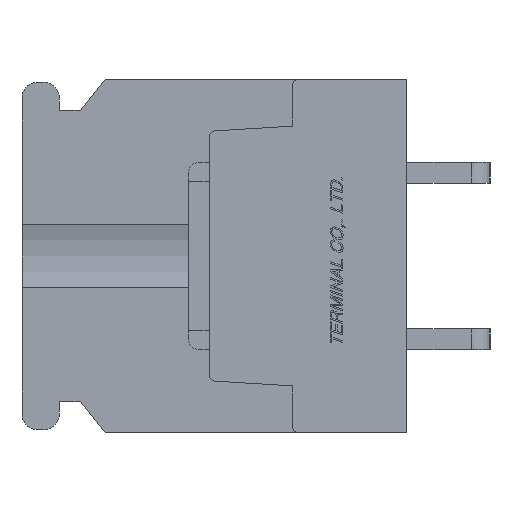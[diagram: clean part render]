
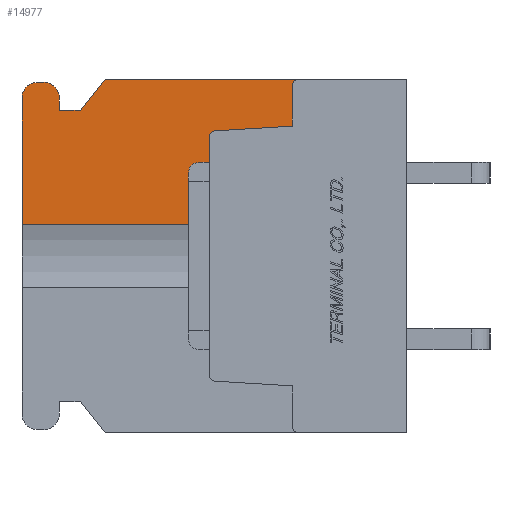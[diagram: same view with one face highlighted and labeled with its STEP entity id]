
A CAD part, left-side view. The second image highlights one B-rep face of the part: STEP entity #14977.
In plain terms, the highlighted planar face has unit normal (-1, 0, 0).
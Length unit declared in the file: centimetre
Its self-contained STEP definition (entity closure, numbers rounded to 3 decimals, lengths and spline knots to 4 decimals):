
#1463=VECTOR('',#17374,1.);
#1465=VECTOR('',#17377,1.);
#1467=VECTOR('',#17384,1.);
#1468=VECTOR('',#17385,1.);
#1469=VECTOR('',#17386,1.);
#1470=VECTOR('',#17387,1.);
#1471=VECTOR('',#17388,1.);
#1472=VECTOR('',#17391,1.);
#1473=VECTOR('',#17394,1.);
#1474=VECTOR('',#17395,1.);
#3125=LINE('',#22637,#1463);
#3127=LINE('',#22641,#1465);
#3129=LINE('',#22647,#1467);
#3130=LINE('',#22649,#1468);
#3131=LINE('',#22651,#1469);
#3132=LINE('',#22653,#1470);
#3133=LINE('',#22655,#1471);
#3134=LINE('',#22659,#1472);
#3135=LINE('',#22663,#1473);
#3136=LINE('',#22665,#1474);
#4784=VERTEX_POINT('',#22630);
#4785=VERTEX_POINT('',#22632);
#4786=VERTEX_POINT('',#22636);
#4787=VERTEX_POINT('',#22640);
#4788=VERTEX_POINT('',#22644);
#4789=VERTEX_POINT('',#22648);
#4790=VERTEX_POINT('',#22650);
#4791=VERTEX_POINT('',#22652);
#4792=VERTEX_POINT('',#22654);
#4793=VERTEX_POINT('',#22656);
#4794=VERTEX_POINT('',#22658);
#4795=VERTEX_POINT('',#22660);
#4796=VERTEX_POINT('',#22662);
#4797=VERTEX_POINT('',#22664);
#5545=CIRCLE('',#25306,0.03);
#5546=CIRCLE('',#25310,0.03);
#5547=CIRCLE('',#25312,0.075);
#5548=CIRCLE('',#25313,0.075);
#7009=EDGE_CURVE('',#4785,#4784,#5545,.T.);
#7012=EDGE_CURVE('',#4784,#4786,#3125,.T.);
#7014=EDGE_CURVE('',#4786,#4787,#3127,.T.);
#7016=EDGE_CURVE('',#4787,#4788,#5546,.T.);
#7017=EDGE_CURVE('',#4789,#4785,#3129,.T.);
#7018=EDGE_CURVE('',#4790,#4788,#3130,.T.);
#7019=EDGE_CURVE('',#4791,#4790,#3131,.T.);
#7020=EDGE_CURVE('',#4792,#4791,#3132,.T.);
#7021=EDGE_CURVE('',#4793,#4792,#3133,.T.);
#7022=EDGE_CURVE('',#4794,#4793,#5547,.T.);
#7023=EDGE_CURVE('',#4795,#4794,#3134,.T.);
#7024=EDGE_CURVE('',#4796,#4795,#5548,.T.);
#7025=EDGE_CURVE('',#4797,#4796,#3135,.T.);
#7026=EDGE_CURVE('',#4797,#4789,#3136,.T.);
#10438=ORIENTED_EDGE('',*,*,#7017,.T.);
#10439=ORIENTED_EDGE('',*,*,#7009,.T.);
#10440=ORIENTED_EDGE('',*,*,#7012,.T.);
#10441=ORIENTED_EDGE('',*,*,#7014,.T.);
#10442=ORIENTED_EDGE('',*,*,#7016,.T.);
#10443=ORIENTED_EDGE('',*,*,#7018,.F.);
#10444=ORIENTED_EDGE('',*,*,#7019,.F.);
#10445=ORIENTED_EDGE('',*,*,#7020,.F.);
#10446=ORIENTED_EDGE('',*,*,#7021,.F.);
#10447=ORIENTED_EDGE('',*,*,#7022,.F.);
#10448=ORIENTED_EDGE('',*,*,#7023,.F.);
#10449=ORIENTED_EDGE('',*,*,#7024,.F.);
#10450=ORIENTED_EDGE('',*,*,#7025,.F.);
#10451=ORIENTED_EDGE('',*,*,#7026,.T.);
#13139=EDGE_LOOP('',(#10438,#10439,#10440,#10441,#10442,#10443,#10444,#10445,
#10446,#10447,#10448,#10449,#10450,#10451));
#14085=FACE_BOUND('',#13139,.T.);
#14977=ADVANCED_FACE('',(#14085),#15684,.F.);
#15684=PLANE('',#25311);
#17369=DIRECTION('',(1.,0.,0.));
#17370=DIRECTION('',(0.,0.,0.03));
#17374=DIRECTION('',(0.,-0.998,0.061));
#17377=DIRECTION('',(0.,0.,1.));
#17381=DIRECTION('',(1.,0.,0.));
#17382=DIRECTION('',(0.,0.,0.03));
#17383=DIRECTION('',(1.,0.,0.));
#17384=DIRECTION('',(0.,0.,1.));
#17385=DIRECTION('',(0.,-1.,0.));
#17386=DIRECTION('',(0.,-0.625,0.781));
#17387=DIRECTION('',(0.,-1.,0.));
#17388=DIRECTION('',(0.,0.,-1.));
#17389=DIRECTION('',(1.,0.,0.));
#17390=DIRECTION('',(0.,0.,-0.075));
#17391=DIRECTION('',(0.,-1.,0.));
#17392=DIRECTION('',(1.,0.,0.));
#17393=DIRECTION('',(0.,0.,-0.075));
#17394=DIRECTION('',(0.,0.,1.));
#17395=DIRECTION('',(0.,-1.,0.));
#22630=CARTESIAN_POINT('',(-1.1,0.9218,0.6017));
#22631=CARTESIAN_POINT('',(-1.1,0.92,0.5718));
#22632=CARTESIAN_POINT('',(-1.1,0.95,0.5718));
#22636=CARTESIAN_POINT('',(-1.1,0.55,0.6245));
#22637=CARTESIAN_POINT('',(-1.1,0.859,0.6056));
#22640=CARTESIAN_POINT('',(-1.1,0.55,0.82));
#22641=CARTESIAN_POINT('',(-1.1,0.55,0.3611));
#22644=CARTESIAN_POINT('',(-1.1,0.52,0.85));
#22645=CARTESIAN_POINT('',(-1.1,0.52,0.82));
#22646=CARTESIAN_POINT('',(-1.1,0.9454,0.));
#22647=CARTESIAN_POINT('',(-1.1,0.95,0.));
#22648=CARTESIAN_POINT('',(-1.1,0.95,0.1521));
#22649=CARTESIAN_POINT('',(-1.1,1.45,0.85));
#22650=CARTESIAN_POINT('',(-1.1,1.45,0.85));
#22651=CARTESIAN_POINT('',(-1.1,1.57,0.7));
#22652=CARTESIAN_POINT('',(-1.1,1.57,0.7));
#22653=CARTESIAN_POINT('',(-1.1,1.67,0.7));
#22654=CARTESIAN_POINT('',(-1.1,1.67,0.7));
#22655=CARTESIAN_POINT('',(-1.1,1.67,0.76));
#22656=CARTESIAN_POINT('',(-1.1,1.67,0.76));
#22657=CARTESIAN_POINT('',(-1.1,1.745,0.76));
#22658=CARTESIAN_POINT('',(-1.1,1.745,0.835));
#22659=CARTESIAN_POINT('',(-1.1,1.775,0.835));
#22660=CARTESIAN_POINT('',(-1.1,1.775,0.835));
#22661=CARTESIAN_POINT('',(-1.1,1.775,0.76));
#22662=CARTESIAN_POINT('',(-1.1,1.85,0.76));
#22663=CARTESIAN_POINT('',(-1.1,1.85,-0.76));
#22664=CARTESIAN_POINT('',(-1.1,1.85,0.1521));
#22665=CARTESIAN_POINT('',(-1.1,1.4,0.1521));
#25306=AXIS2_PLACEMENT_3D('',#22631,#17369,#17370);
#25310=AXIS2_PLACEMENT_3D('',#22645,#17381,#17382);
#25311=AXIS2_PLACEMENT_3D('',#22646,#17383,$);
#25312=AXIS2_PLACEMENT_3D('',#22657,#17389,#17390);
#25313=AXIS2_PLACEMENT_3D('',#22661,#17392,#17393);
